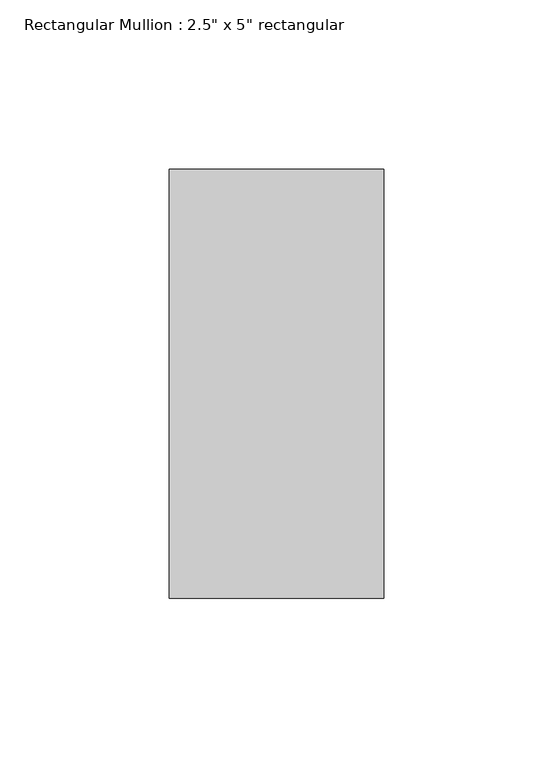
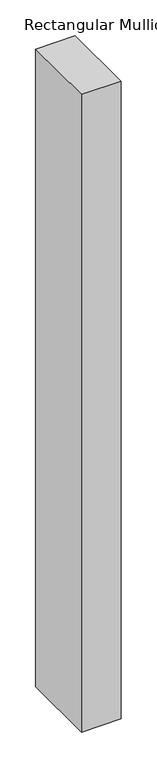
"""IFC4 building model written with IfcOpenShell, lengths in millimetres: member geometry."""

from ifc_helpers import new_model, si_unit, frame, origin, place, context, project, spatial, polyline, outline, extrude, source, transform, mapped, element, save


def member_4307138b(model_context):
    return source(origin(), model_context, "Body", "SweptSolid", [
        extrude(outline(polyline([(0.0, 63.5), (0.0, -63.5), (-63.5, -63.5), (-63.5, 63.5), (0.0, 63.5)])), frame((0.0, 0.0, -1082.6750002), z_axis=(0.0, 0.0, 1.0), x_axis=(1.0, 0.0, 0.0)), (0.0, 0.0, 1.0), 1082.6750002),
    ])


if __name__ == "__main__":
    model = new_model("IFC4")
    model_context = context("Model", 3, world=origin())
    ifc_project = project(units=[si_unit("LENGTHUNIT", "METRE", prefix="MILLI")], contexts=[model_context])
    site = spatial("IfcSite", under=ifc_project)
    building = spatial("IfcBuilding", under=site)
    placement = place(None, origin())
    member_shape = member_4307138b(model_context)
    element("IfcMember", 1, ObjectType="Rectangular Mullion : 2.5\" x 5\" rectangular", at=placement, inside=building, context=model_context, shape_type="MappedRepresentation", body=[
        mapped(member_shape, transform((0.0, 0.0, 0.0), x_axis=(1.0, 0.0, 0.0), y_axis=(0.0, 1.0, 0.0), z_axis=(0.0, 0.0, 1.0))),
    ])
    save(model, "model.ifc")
